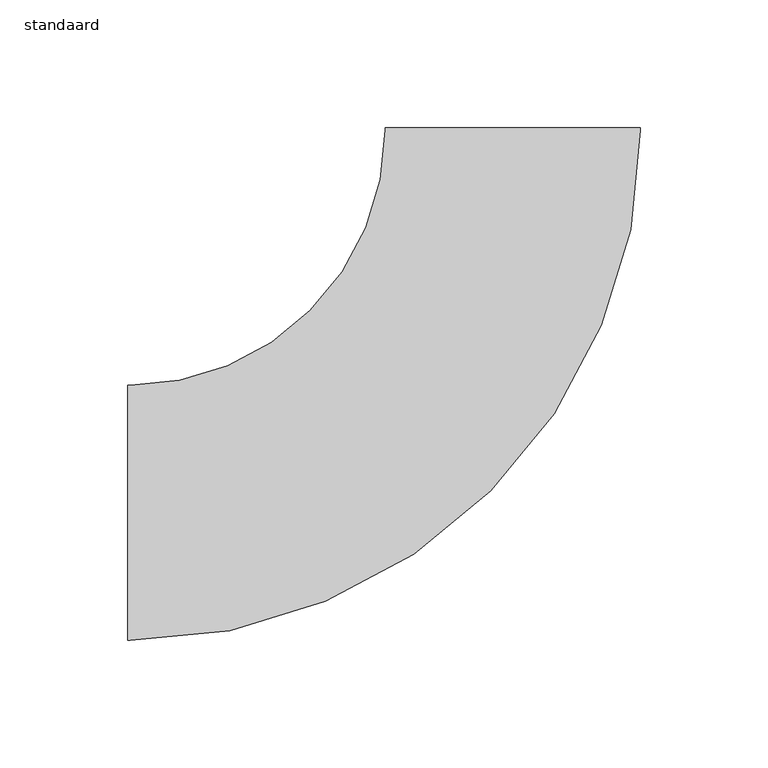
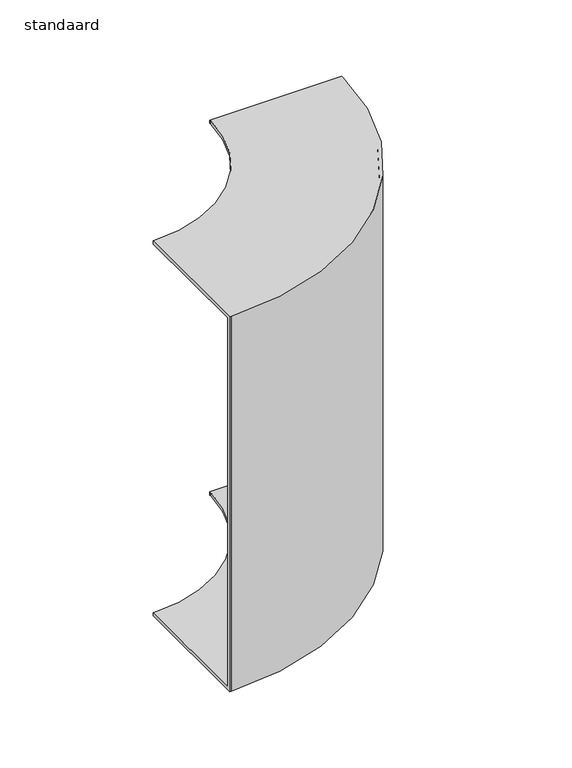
"""IFC4 building model written with IfcOpenShell, lengths in millimetres: cable carrier fitting geometry, AI_Raccord cdc_Coude montant : standaard."""

from ifc_helpers import new_model, si_unit, frame, origin, place, context, project, spatial, polyline, circle_curve, source, transform, mapped, element, save
from ifc_brep_helpers import plane_surface, cylinder_surface, revolved_surface, advanced_brep


def standaard_22adcec4(model_context):
    return source(origin(), model_context, "Body", "AdvancedBrep", [
        advanced_brep(
        [(-151.0, 50.0, 150.0), (-151.0, 50.0, 147.46), (-151.0, -47.46, 147.46), (-151.0, -47.46, -147.46), (-151.0, 50.0, -147.46), (-151.0, 50.0, -150.0), (-151.0, -50.0, -150.0), (-151.0, -50.0, 150.0), (-50.0, 151.0, 150.0), (50.0, 151.0, 150.0), (50.0, 151.0, -150.0), (-50.0, 151.0, -150.0), (-50.0, 151.0, -147.46), (47.46, 151.0, -147.46), (47.46, 151.0, 147.46), (-50.0, 151.0, 147.46), (-150.0, -50.0, 150.0), (50.0, 150.0, 150.0), (-50.0, 150.0, 150.0), (-150.0, 50.0, 150.0), (-150.0, -50.0, -150.0), (-150.0, 50.0, -150.0), (-50.0, 150.0, -150.0), (50.0, 150.0, -150.0), (-150.0, 50.0, -147.46), (-150.0, -47.46, -147.46), (47.46, 150.0, -147.46), (-50.0, 150.0, -147.46), (-150.0, -47.46, 147.46), (-150.0, 50.0, 147.46), (-50.0, 150.0, 147.46), (47.46, 150.0, 147.46)],
        [
            (0, 1),
            (1, 2),
            (2, 3),
            (3, 4),
            (4, 5),
            (5, 6),
            (6, 7),
            (7, 0),
            (8, 9),
            (9, 10),
            (10, 11),
            (11, 12),
            (12, 13),
            (13, 14),
            (14, 15),
            (15, 8),
            (7, 16),
            (16, 17, circle_curve(frame((-150.0, 150.0, 150.0), z_axis=(0.0, 0.0, 1.0), x_axis=(0.0, -1.0, 0.0)), 200.0)),
            (17, 9),
            (8, 18),
            (18, 19, circle_curve(frame((-150.0, 150.0, 150.0), z_axis=(0.0, 0.0, -1.0), x_axis=(0.0, -1.0, 0.0)), 100.0)),
            (19, 0),
            (6, 20),
            (20, 16),
            (5, 21),
            (21, 22, circle_curve(frame((-150.0, 150.0, -150.0), z_axis=(0.0, 0.0, 1.0), x_axis=(0.0, -1.0, 0.0)), 100.0)),
            (22, 11),
            (10, 23),
            (23, 20, circle_curve(frame((-150.0, 150.0, -150.0), z_axis=(0.0, 0.0, -1.0), x_axis=(0.0, -1.0, 0.0)), 200.0)),
            (4, 24),
            (24, 21),
            (3, 25),
            (25, 26, circle_curve(frame((-150.0, 150.0, -147.46), z_axis=(0.0, 0.0, 1.0), x_axis=(0.0, -1.0, 0.0)), 197.46)),
            (26, 13),
            (12, 27),
            (27, 24, circle_curve(frame((-150.0, 150.0, -147.46), z_axis=(0.0, 0.0, -1.0), x_axis=(0.0, -1.0, 0.0)), 100.0)),
            (2, 28),
            (28, 25),
            (1, 29),
            (29, 30, circle_curve(frame((-150.0, 150.0, 147.46), z_axis=(0.0, 0.0, 1.0), x_axis=(0.0, -1.0, 0.0)), 100.0)),
            (30, 15),
            (14, 31),
            (31, 28, circle_curve(frame((-150.0, 150.0, 147.46), z_axis=(0.0, 0.0, -1.0), x_axis=(0.0, -1.0, 0.0)), 197.46)),
            (19, 29),
            (23, 17),
            (27, 22),
            (31, 26),
            (18, 30),
        ],
        [
            plane_surface(frame((-151.0, 0.0, 0.0), z_axis=(-1.0, -4.8898218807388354e-12, 0.0), x_axis=(0.0, 0.0, 1.0))),
            plane_surface(frame((0.0, 151.0, 0.0), z_axis=(0.0, 1.0, 0.0), x_axis=(0.0, 0.0, 1.0))),
            plane_surface(frame((-151.0, -50.0, 150.0), z_axis=(0.0, 0.0, 1.0), x_axis=(1.0, 4.889821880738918e-12, 0.0))),
            plane_surface(frame((-151.0, -50.0, -150.0), z_axis=(4.881361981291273e-12, -1.0, 0.0), x_axis=(1.0, 4.881361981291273e-12, 0.0))),
            plane_surface(frame((-151.0, 50.0, -150.0), z_axis=(0.0, 0.0, -1.0), x_axis=(1.0, 4.881361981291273e-12, 0.0))),
            plane_surface(frame((-151.0, 50.0, -147.46), z_axis=(-4.889821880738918e-12, 1.0, 0.0), x_axis=(1.0, 4.889821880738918e-12, 0.0))),
            plane_surface(frame((-151.0, -47.46, -147.46), z_axis=(0.0, 0.0, 1.0), x_axis=(1.0, 4.906741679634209e-12, 0.0))),
            plane_surface(frame((-151.0, -47.46, 147.46), z_axis=(-4.906741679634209e-12, 1.0, 0.0), x_axis=(1.0, 4.906741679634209e-12, 0.0))),
            plane_surface(frame((-151.0, 50.0, 147.46), z_axis=(0.0, 0.0, -1.0), x_axis=(1.0, 4.889821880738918e-12, 0.0))),
            plane_surface(frame((-151.0, 50.0, 150.0), z_axis=(-4.889821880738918e-12, 1.0, 0.0), x_axis=(1.0, 4.889821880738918e-12, 0.0))),
            cylinder_surface(frame((-150.0, 150.0, 0.0), z_axis=(0.0, 0.0, 1.0), x_axis=(0.0, -1.0, 0.0)), 200.0),
            revolved_surface(polyline([(-150.0, 50.0, -147.46), (-150.0, 50.0, -150.0)]), (-150.0, 150.0, 0.0), (0.0, 0.0, 1.0)),
            revolved_surface(polyline([(-150.0, -47.46000000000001, 147.46), (-150.0, -47.46000000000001, -147.46)]), (-150.0, 150.0, 0.0), (0.0, 0.0, 1.0)),
            revolved_surface(polyline([(-150.0, 50.0, 150.0), (-150.0, 50.0, 147.46)]), (-150.0, 150.0, 0.0), (0.0, 0.0, 1.0)),
            plane_surface(frame((50.0, 150.0, -150.0), z_axis=(1.0, 0.0, 0.0), x_axis=(0.0, 1.0, 0.0))),
            plane_surface(frame((-50.0, 150.0, -147.46), z_axis=(-1.0, 0.0, 0.0), x_axis=(0.0, 1.0, 0.0))),
            plane_surface(frame((47.46, 150.0, 147.46), z_axis=(-1.0, 0.0, 0.0), x_axis=(0.0, 1.0, 0.0))),
            plane_surface(frame((-50.0, 150.0, 150.0), z_axis=(-1.0, 0.0, 0.0), x_axis=(0.0, 1.0, 0.0))),
        ],
        [
            (0, [[1, 2, 3, 4, 5, 6, 7, 8]]),
            (1, [[9, 10, 11, 12, 13, 14, 15, 16]]),
            (2, [[-8, 17, 18, 19, -9, 20, 21, 22]]),
            (3, [[-7, 23, 24, -17]]),
            (4, [[-6, 25, 26, 27, -11, 28, 29, -23]]),
            (5, [[-5, 30, 31, -25]]),
            (6, [[-4, 32, 33, 34, -13, 35, 36, -30]]),
            (7, [[-3, 37, 38, -32]]),
            (8, [[-2, 39, 40, 41, -15, 42, 43, -37]]),
            (9, [[-1, -22, 44, -39]]),
            (10, [[-18, -24, -29, 45]]),
            (11, [[-26, -31, -36, 46]]),
            (12, [[-33, -38, -43, 47]]),
            (13, [[-40, -44, -21, 48]]),
            (14, [[-45, -28, -10, -19]]),
            (15, [[-46, -35, -12, -27]]),
            (16, [[-47, -42, -14, -34]]),
            (17, [[-48, -20, -16, -41]]),
        ],
    ),
    ])


if __name__ == "__main__":
    model = new_model("IFC4")
    model_context = context("Model", 3, world=origin())
    ifc_project = project(units=[si_unit("LENGTHUNIT", "METRE", prefix="MILLI")], contexts=[model_context])
    site = spatial("IfcSite", under=ifc_project)
    building = spatial("IfcBuilding", under=site)
    placement = place(None, origin())
    standaard_shape = standaard_22adcec4(model_context)
    element("IfcCableCarrierFitting", 1, ObjectType="AI_Raccord cdc_Coude montant : standaard", at=placement, inside=building, context=model_context, shape_type="MappedRepresentation", body=[
        mapped(standaard_shape, transform((0.0, 0.0, 0.0), x_axis=(1.0, 0.0, 0.0), y_axis=(0.0, 1.0, 0.0), z_axis=(0.0, 0.0, 1.0))),
    ])
    save(model, "model.ifc")
